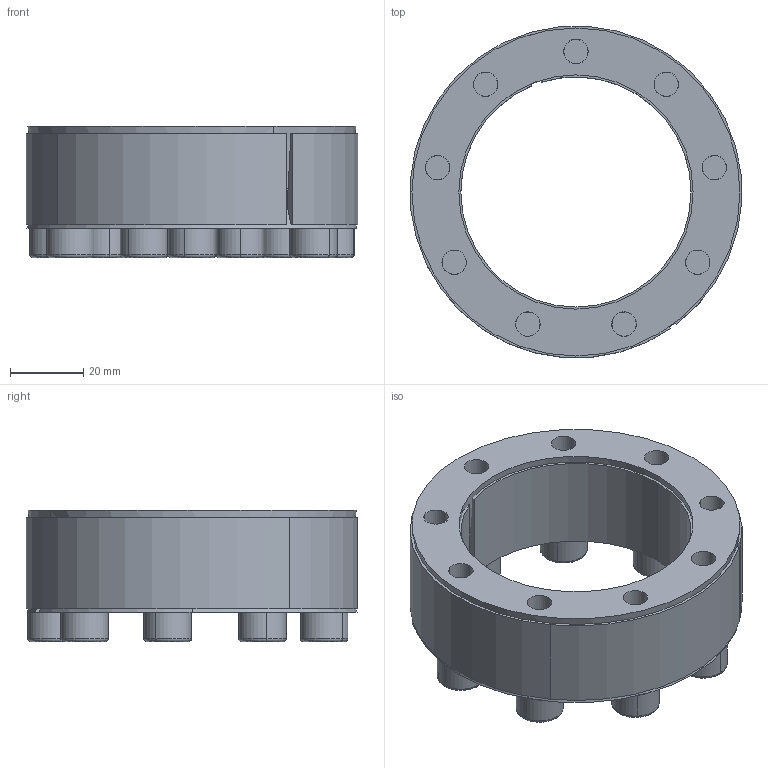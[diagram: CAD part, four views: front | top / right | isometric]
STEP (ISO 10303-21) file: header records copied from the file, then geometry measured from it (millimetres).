
FILE_DESCRIPTION (( 'STEP AP214' ), '1' );
FILE_NAME ('CONEX-L-63x91.step', '2013-04-06T13:23:11', ( 'Pc' ), ( '' ), 'SwSTEP 2.0', 'SolidWorks 2013', '' );
FILE_SCHEMA (( 'AUTOMOTIVE_DESIGN' ));
Length unit declared in the file: millimetre
Products named in the file (1): CONEX-L-63x91
Bounding box: 90.78 x 90.71 x 35.97 mm (x, y, z)
Volume: 90707.6 mm3; surface area: 58943.1 mm2
Topology: 12 solids, 12 shells, 318 faces, 727 edges, 433 vertices
Faces by surface type: plane 146, cylinder 84, cone 52, torus 36
Entity records: 12538 total; most frequent: DIRECTION 1680, CARTESIAN_POINT 1494, ORIENTED_EDGE 1418, EDGE_CURVE 709, AXIS2_PLACEMENT_3D 660, VERTEX_POINT 433, EDGE_LOOP 380, VECTOR 360
